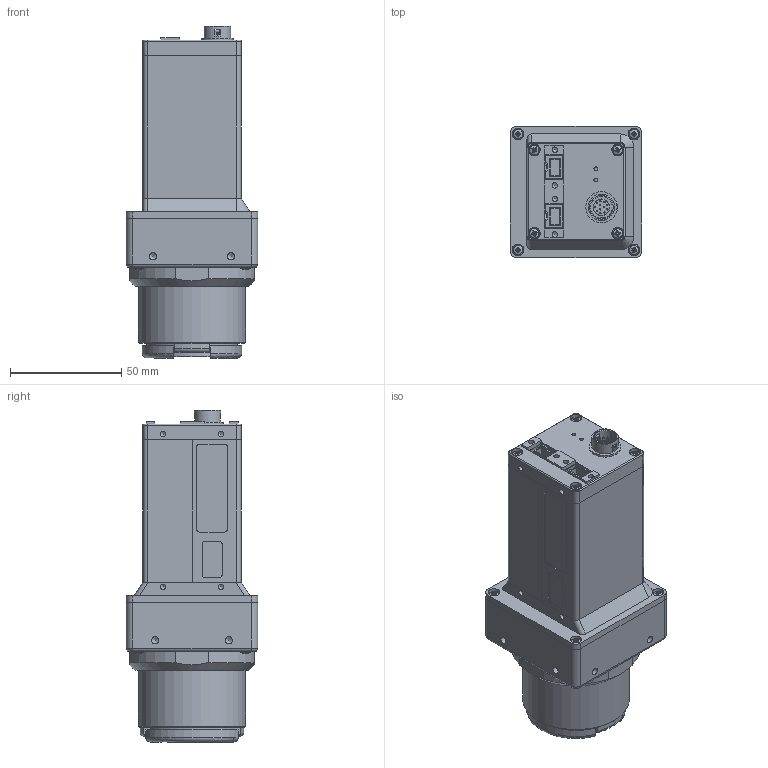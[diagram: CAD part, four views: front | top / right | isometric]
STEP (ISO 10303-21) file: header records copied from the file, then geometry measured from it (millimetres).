
FILE_DESCRIPTION((''),'2;1');
FILE_NAME('\\Avtnet.local\dfs-mechanics\Inventor\Kamerafamilien\Pike\Pike_11+16M\STP\Pike_M42-Mount.stp','2010-05-10T18:37:54',('mressin'),(''),'Autodesk Inventor 11','Autodesk Inventor 11','');
FILE_SCHEMA(('AUTOMOTIVE_DESIGN { 1 0 10303 214 1 1 1 1 }'));
Length unit declared in the file: millimetre
Products named in the file (41): Pike_M42-Mount; K5000966_Pike_Seite-links_MSZ; Pike_Kodak_AFE_2v20; Pike_IPU_Std_2C35_1v00; Pike_uC-Cu-EMV_2v50; Pike_uC_Cu_2v10; FW-1fach; Pike_Power_EMV_2v00; K5000967_Pike-Seite rechts_MSZ; K4000271_Pike_Rückwand-PUH; K5000919_Pike_Rückwand-PUH; Pike_Backplane-EMV_2v00_FF; Pike_Backplane-EMV_2v00; Marlin-IO-Board; STECKER-KPL-K7600043; Pinträger-10J43_2; PinB-lang-10J43; PinB-kurz-10J43; Trägerfassung-10J43; HIROSE-12pol-klemmring; HIROSE-12pol-6kt-ring; K5510010_Linsenschraube mit KS ISO7045-M1; K5510003_Linsenschraube mit KS ISO7045-M2,5x8-A2-sw; K5001078_Abdeckung_gerade; K5510001_Zylinderschr. mit ISK ISO4762-M2,5x10-A2-sw; Pike_11+16MP_Frontflansch_M42-Mount_ZUS; K5001090_Kopfgehäuse; K5001088_SENSORAUFLAGE_11M_1; SensorBoard_11M_kaumBestueckt; SensorBoard-11M; CON45_AVXELCO_6240_-_INVERTED_PINS_0_0866_J; Open CASCADE STEP translator 6.2 36.204; K8150099_Sensor KAI11002-monocrom; K5510009_Zylinderschr. mit ISK ISO4762-M2x12-A2; K5510145_Linsenschraube mit KS ISO7045-M2,5x6-A2-sw; Pike-11+16MP_Filterring_M42-Mount; K5001086_M42 -MOUNT-FILTERRING; K5100187_Filterglas_V46-100_Drm2_Dicke3mm; K4100635_Gehäusedeckel_M42-Mount; K5001080-84_Abstimmscheibe
Assembly tree (70 placements, depth 7):
  Pike_M42-Mount
    K5000966_Pike_Seite-links_MSZ
    Pike_Kodak_AFE_2v20
    Pike_IPU_Std_2C35_1v00
    Pike_uC-Cu-EMV_2v50
      Pike_uC_Cu_2v10
      FW-1fach  x2
    Pike_Power_EMV_2v00
    K5000967_Pike-Seite rechts_MSZ
    K4000271_Pike_Rückwand-PUH
      K5000919_Pike_Rückwand-PUH
      Pike_Backplane-EMV_2v00_FF
        Pike_Backplane-EMV_2v00
        Marlin-IO-Board
          STECKER-KPL-K7600043
            Pinträger-10J43_2
              Pinträger-10J43_2
              PinB-lang-10J43  x3
              PinB-kurz-10J43  x9
            Trägerfassung-10J43
          HIROSE-12pol-klemmring
          HIROSE-12pol-6kt-ring
      K5510010_Linsenschraube mit KS ISO7045-M1  x2
    K5510003_Linsenschraube mit KS ISO7045-M2,5x8-A2-sw  x4
    K5001078_Abdeckung_gerade
    K5510001_Zylinderschr. mit ISK ISO4762-M2,5x10-A2-sw  x4
    Pike_11+16MP_Frontflansch_M42-Mount_ZUS
      K5001090_Kopfgehäuse
      K5001088_SENSORAUFLAGE_11M_1
      SensorBoard_11M_kaumBestueckt
        SensorBoard-11M
        CON45_AVXELCO_6240_-_INVERTED_PINS_0_0866_J
        Open CASCADE STEP translator 6.2 36.204
        K8150099_Sensor KAI11002-monocrom
      K5510009_Zylinderschr. mit ISK ISO4762-M2x12-A2  x4
      K5510145_Linsenschraube mit KS ISO7045-M2,5x6-A2-sw  x2
      Pike-11+16MP_Filterring_M42-Mount
        K5001086_M42 -MOUNT-FILTERRING
        K5100187_Filterglas_V46-100_Drm2_Dicke3mm
        K4100635_Gehäusedeckel_M42-Mount
    K5510145_Linsenschraube mit KS ISO7045-M2,5x6-A2-sw  x8
    K5001080-84_Abstimmscheibe
Bounding box: 59 x 59 x 148.9 mm (x, y, z)
Volume: 131396.1 mm3; surface area: 130089.8 mm2
Topology: 942 solids, 942 shells, 8332 faces, 18650 edges, 11649 vertices
Faces by surface type: plane 4912, cylinder 2422, bspline 577, cone 304, torus 101, sphere 16
Full cylindrical faces by diameter (mm): 0.1 x83, 0.2 x197, 0.5 x12, 0.6 x52, 0.65 x6, 1 x1, 1.031 x1, 1.1 x12, 1.411 x2, 1.6 x2, 1.8 x2, 2 x6, 2.1 x2, 2.2 x4, 2.256 x14, 2.3 x4, 2.5 x22, 2.7 x4, 3 x2, 3.8 x4, 4.5 x4, 6.3 x2, 6.5 x1, 7.5 x1, 8.3 x3, 8.5 x1, 10.2 x1, 10.6 x1, 10.8 x2, 11.8 x1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
Entity records: 208214 total; most frequent: CARTESIAN_POINT 41238, DIRECTION 34982, ORIENTED_EDGE 32376, EDGE_CURVE 16188, AXIS2_PLACEMENT_3D 12227, VECTOR 10528, LINE 10528, VERTEX_POINT 10392
